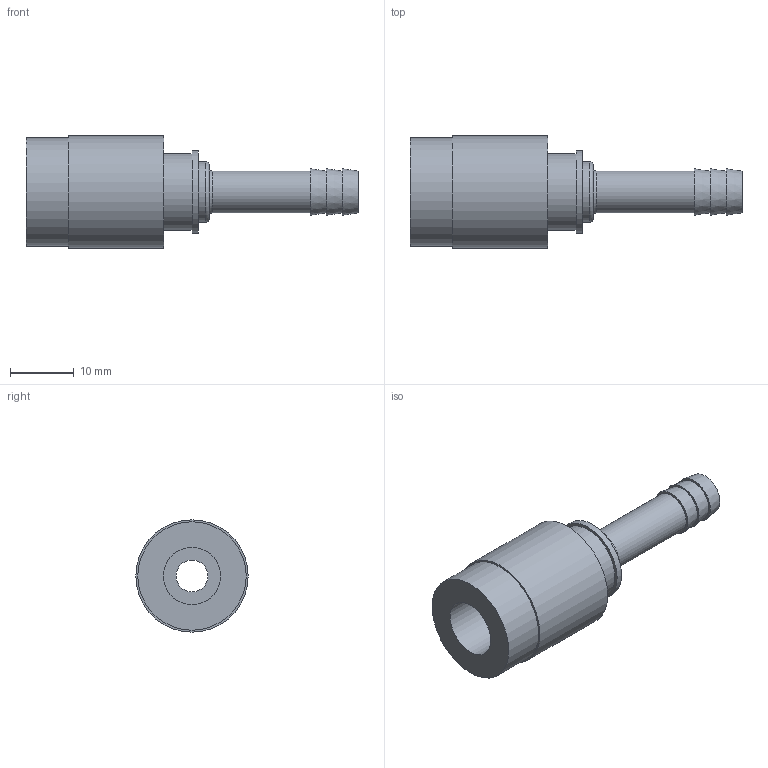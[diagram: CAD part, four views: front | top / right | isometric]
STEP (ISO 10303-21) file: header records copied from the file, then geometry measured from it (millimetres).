
FILE_DESCRIPTION(/* description */ ('STEP AP214'),/* implementation_level */ '2;1');
FILE_NAME(/* name */ 'SK106',/* time_stamp */ '2024-12-05T10:36:20+01:00',/* author */ ('License CC BY-ND 4.0'),/* organization */ ('CADENAS'),/* preprocessor_version */ 'ST-DEVELOPER v19.3',/* originating_system */ 'PARTsolutions',/* authorisation */ ' ');
FILE_SCHEMA (('AUTOMOTIVE_DESIGN {1 0 10303 214 3 1 1}'));
Length unit declared in the file: millimetre
Products named in the file (1): SK106
Bounding box: 52 x 17.6 x 17.6 mm (x, y, z)
Volume: 4594.9 mm3; surface area: 3560.8 mm2
Topology: 1 solids, 1 shells, 24 faces, 37 edges, 24 vertices
Faces by surface type: plane 11, cylinder 8, cone 3, torus 2
Full cylindrical faces by diameter (mm): 5 x1, 6.57 x1, 9 x1, 9.49 x1, 12 x1, 13 x1, 17 x1, 17.6 x1
Entity records: 518 total; most frequent: DIRECTION 98, CARTESIAN_POINT 73, AXIS2_PLACEMENT_3D 49, ORIENTED_EDGE 48, EDGE_LOOP 48, FACE_BOUND 48, EDGE_CURVE 24, VERTEX_POINT 24
